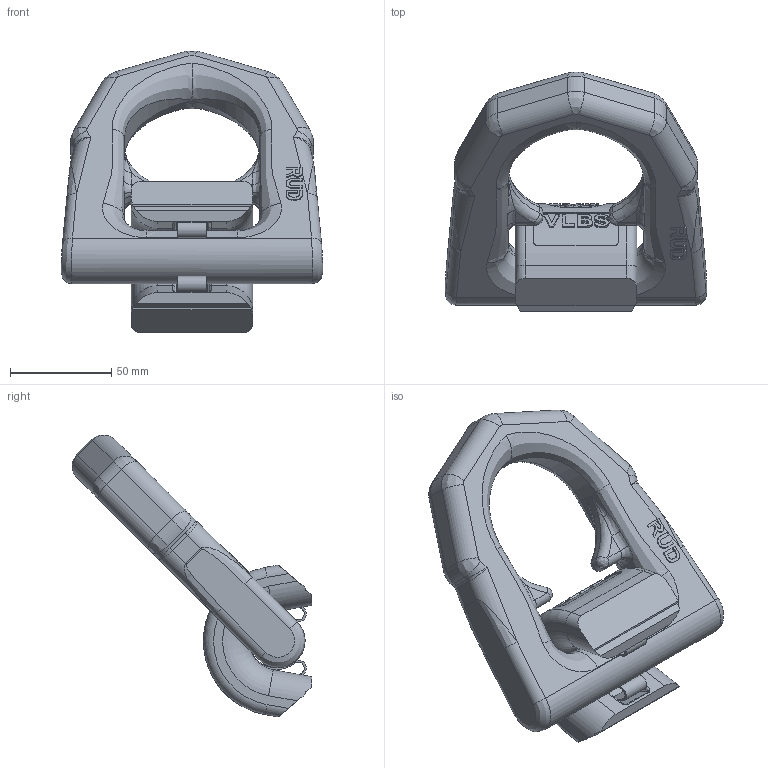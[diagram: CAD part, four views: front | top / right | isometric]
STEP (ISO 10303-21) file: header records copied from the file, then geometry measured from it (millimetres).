
FILE_DESCRIPTION((''),'2;1');
FILE_NAME('001-M32121-P5_ASM','2017-10-18T',('anja.joas'),(''),'PRO/ENGINEER BY PARAMETRIC TECHNOLOGY CORPORATION, 2011490','PRO/ENGINEER BY PARAMETRIC TECHNOLOGY CORPORATION, 2011490','');
FILE_SCHEMA(('CONFIG_CONTROL_DESIGN'));
Length unit declared in the file: millimetre
Products named in the file (4): 001-M32121-P6; 001-M34887-P01; 001-M31417-P-1; 001-M32121-P5_ASM
Assembly tree (3 placements, depth 2):
  001-M32121-P5_ASM
    001-M32121-P6
    001-M34887-P01
    001-M31417-P-1
Bounding box: 129.17 x 118.21 x 139.21 mm (x, y, z)
Volume: 368824.2 mm3; surface area: 60556.3 mm2
Topology: 3 solids, 3 shells, 553 faces, 1450 edges, 924 vertices
Faces by surface type: plane 280, cylinder 120, extrusion 73, bspline 60, torus 16, sphere 4
Entity records: 35193 total; most frequent: CARTESIAN_POINT 22260, ORIENTED_EDGE 2900, DIRECTION 2275, EDGE_CURVE 1450, VERTEX_POINT 924, VECTOR 859, LINE 786, AXIS2_PLACEMENT_3D 708
